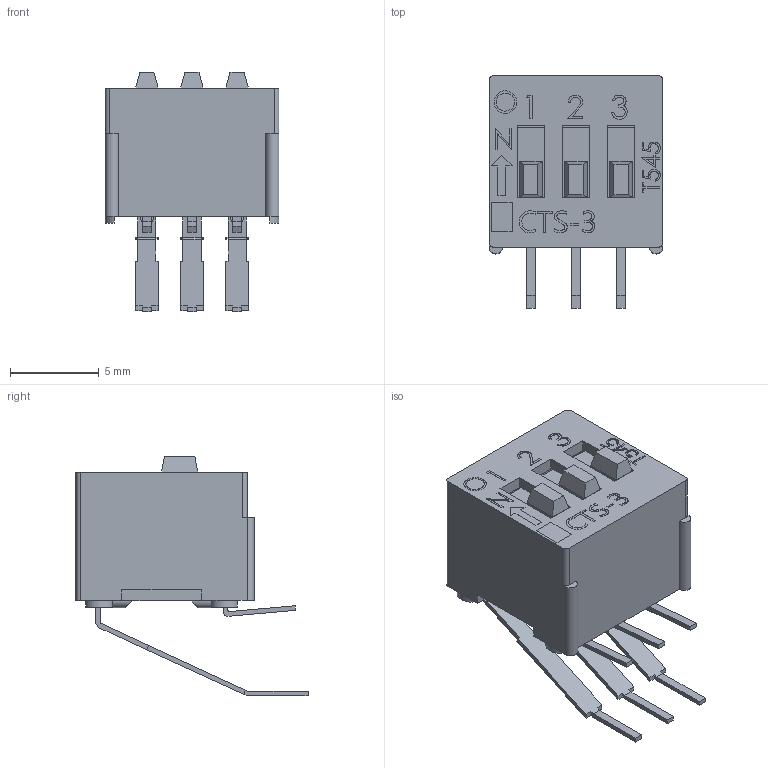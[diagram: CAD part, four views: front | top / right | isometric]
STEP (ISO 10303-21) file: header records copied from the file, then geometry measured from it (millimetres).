
FILE_DESCRIPTION (( 'STEP AP214' ), '1' );
FILE_NAME ('206-3RA.STEP', '2019-05-24T06:49:49', ( '' ), ( '' ), 'SwSTEP 2.0', 'SolidWorks 2019', '' );
FILE_SCHEMA (( 'AUTOMOTIVE_DESIGN' ));
Length unit declared in the file: millimetre
Products named in the file (4): 206-56-014-35-01; 206-40-233-40-01(SPST-RA); 206-3RA; 206003RAS- Base assly
Assembly tree (5 placements, depth 2):
  206-3RA
    206-40-233-40-01(SPST-RA)
    206003RAS- Base assly
    206-56-014-35-01  x3
Bounding box: 9.8 x 13.08 x 13.5 mm (x, y, z)
Volume: 451.3 mm3; surface area: 1448.1 mm2
Topology: 5 solids, 5 shells, 479 faces, 1292 edges, 850 vertices
Faces by surface type: plane 351, bspline 76, cylinder 52
Entity records: 17318 total; most frequent: CARTESIAN_POINT 7091, ORIENTED_EDGE 2180, DIRECTION 1678, EDGE_CURVE 1090, LINE 860, VECTOR 860, VERTEX_POINT 718, EDGE_LOOP 436
